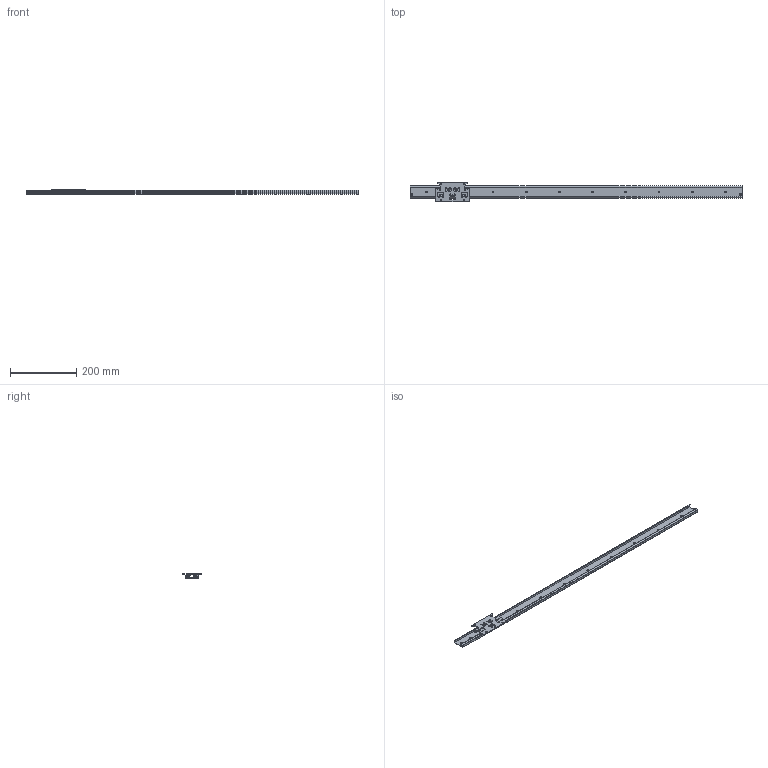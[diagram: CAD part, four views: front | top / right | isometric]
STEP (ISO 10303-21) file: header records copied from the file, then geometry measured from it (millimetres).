
FILE_DESCRIPTION((''),'1');
FILE_NAME('H:/図庫/国内ﾕﾆｯﾄ/ｽﾗｲﾄﾞ/ホームページ用ＣＡＤ図面/3D/37SW/stp', '2018-10-22T23:37:02',(''), (''), 'KCM Version 1.1.1442.0', 'Kubotek KeyCreator', '');
FILE_SCHEMA(('AUTOMOTIVE_DESIGN'));
Length unit declared in the file: millimetre
Bounding box: 1000 x 60 x 14.8 mm (x, y, z)
Surface area: 137994.3 mm2 (no closed solid volume)
Topology: 0 solids, 631 shells, 631 faces, 2539 edges, 2238 vertices
Faces by surface type: plane 262, cone 170, cylinder 144, torus 48, bspline 6, sphere 1
Full cylindrical faces by diameter (mm): 2.3 x6, 2.44 x7, 3 x21, 3.5 x1, 4 x7, 4.03 x6, 4.5 x6, 5 x6, 5.5 x2, 5.6 x3, 6 x5, 8 x6, 8.2 x2
Entity records: 27889 total; most frequent: CARTESIAN_POINT 5736, DIRECTION 4957, ORIENTED_EDGE 2840, EDGE_CURVE 2538, VERTEX_POINT 2231, AXIS2_PLACEMENT_3D 1908, CIRCLE 1248, VECTOR 1141
